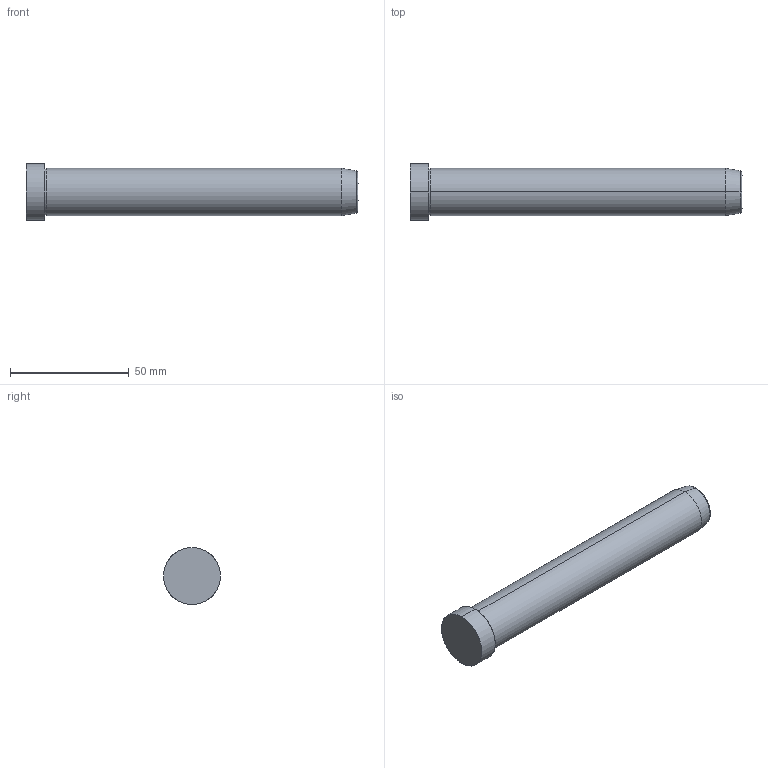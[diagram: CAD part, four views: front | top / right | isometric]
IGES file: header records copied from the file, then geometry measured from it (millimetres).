
Start section: SolidWorks IGES FILE using analytic representation for surfaces
Global section: file name: D:\zzzzz\Delta\D01 D\20\D01 D - 20x140.IGS; native system: SolidWorks 2004 by SolidWorks Corporation; preprocessor: Version 5.3; author: Hkn; date: 080326.194343; units: millimetre
Bounding box: 140 x 24 x 24 mm (x, y, z)
Surface area: 9722.6 mm2 (no closed solid volume)
Topology: 0 solids, 0 shells, 14 faces, 232 edges, 232 vertices
Faces by surface type: revolution 8, bspline 6
